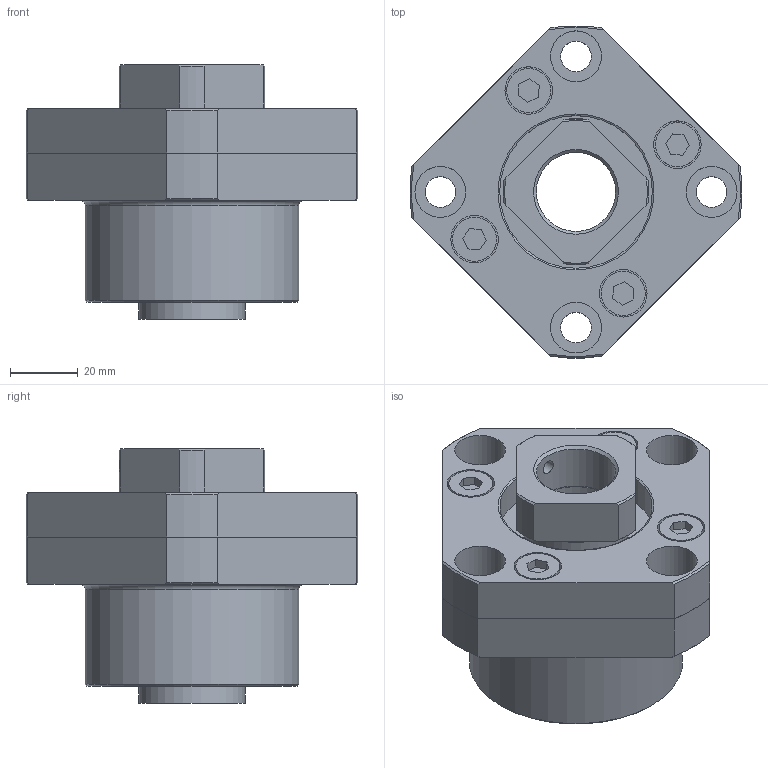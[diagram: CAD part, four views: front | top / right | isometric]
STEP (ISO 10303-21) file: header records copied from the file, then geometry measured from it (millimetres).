
FILE_DESCRIPTION(/* description */ ('STEP AP214'),/* implementation_level */ '2;1');
FILE_NAME(/* name */ 'FK25______CAD_NO_Yes-FS',/* time_stamp */ '2026-09-17T13:36:56+02:00',/* author */ ('License CC BY-ND 4.0'),/* organization */ ('CADENAS'),/* preprocessor_version */ 'ST-DEVELOPER v20',/* originating_system */ 'PARTsolutions',/* authorisation */ ' ');
FILE_SCHEMA (('AUTOMOTIVE_DESIGN {1 0 10303 214 3 1 1}'));
Length unit declared in the file: millimetre
Products named in the file (4): FK25______CAD_NO_Yes-FS; FK 25-FS-1; FK 25collar; RN 25
Assembly tree (4 placements, depth 2):
  FK25______CAD_NO_Yes-FS
    FK 25-FS-1
    FK 25collar  x2
    RN 25
Bounding box: 97.87 x 97.87 x 75 mm (x, y, z)
Volume: 211811.6 mm3; surface area: 47259.8 mm2
Topology: 4 solids, 4 shells, 155 faces, 350 edges, 232 vertices
Faces by surface type: plane 83, cylinder 48, cone 23, torus 1
Full cylindrical faces by diameter (mm): 4.134 x1, 5 x1, 9 x4, 13 x4, 14 x4, 15 x4, 23.376 x1, 25 x3, 31.3 x4, 33 x1, 45 x2, 49.5 x1, 49.54 x1, 63 x1
Entity records: 4219 total; most frequent: CARTESIAN_POINT 798, DIRECTION 694, ORIENTED_EDGE 604, EDGE_CURVE 302, AXIS2_PLACEMENT_3D 270, EDGE_LOOP 232, FACE_BOUND 232, VERTEX_POINT 224
